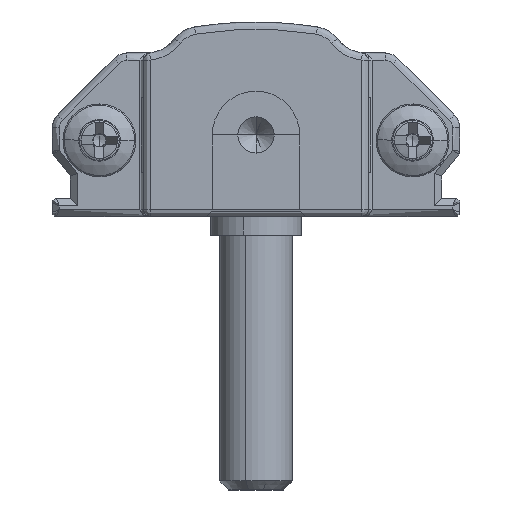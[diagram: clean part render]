
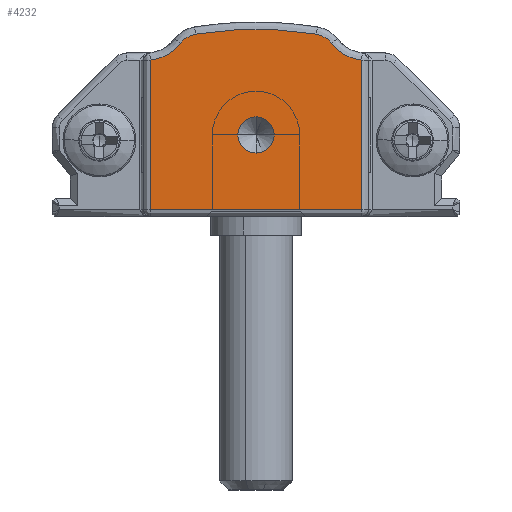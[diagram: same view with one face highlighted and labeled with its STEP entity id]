
A CAD part, front view. The second image highlights one B-rep face of the part: STEP entity #4232.
In plain terms, the highlighted planar face has unit normal (0, -1, 0).
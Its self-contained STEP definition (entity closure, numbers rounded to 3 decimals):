
#607 = ORIENTED_EDGE ( 'NONE', *, *, #17781, .T. ) ;
#1058 = AXIS2_PLACEMENT_3D ( 'NONE', #39123, #14109, #28508 ) ;
#1127 = EDGE_CURVE ( 'NONE', #22911, #10957, #14382, .T. ) ;
#1521 = VERTEX_POINT ( 'NONE', #30233 ) ;
#1541 = CARTESIAN_POINT ( 'NONE',  ( 17., -15., 0.4 ) ) ;
#1763 = LINE ( 'NONE', #1541, #29544 ) ;
#2193 = VERTEX_POINT ( 'NONE', #19965 ) ;
#2585 = FACE_BOUND ( 'NONE', #10904, .T. ) ;
#3157 = CARTESIAN_POINT ( 'NONE',  ( 14.508, -15., 10.034 ) ) ;
#4232 = ADVANCED_FACE ( 'NONE', ( #6807, #2585 ), #45455, .T. ) ;
#5289 = CARTESIAN_POINT ( 'NONE',  ( 11.2, -15., -10.376 ) ) ;
#5462 = CARTESIAN_POINT ( 'NONE',  ( 17., -15., 8.612 ) ) ;
#6319 = DIRECTION ( 'NONE',  ( 0., -1., 0. ) ) ;
#6807 = FACE_OUTER_BOUND ( 'NONE', #40080, .T. ) ;
#6845 = CARTESIAN_POINT ( 'NONE',  ( 11.2, -15., 4.5 ) ) ;
#7504 = DIRECTION ( 'NONE',  ( 0., -1., 0. ) ) ;
#8138 = LINE ( 'NONE', #14107, #9504 ) ;
#8271 = AXIS2_PLACEMENT_3D ( 'NONE', #5289, #30073, #45092 ) ;
#8991 = DIRECTION ( 'NONE',  ( 0., 0., 1. ) ) ;
#9504 = VECTOR ( 'NONE', #21427, 1000. ) ;
#9547 = AXIS2_PLACEMENT_3D ( 'NONE', #6845, #35658, #31025 ) ;
#9856 = DIRECTION ( 'NONE',  ( 0., 0., -1. ) ) ;
#10162 = CARTESIAN_POINT ( 'NONE',  ( 11.2, -15., 5.5 ) ) ;
#10422 = DIRECTION ( 'NONE',  ( 0., 1., 0. ) ) ;
#10904 = EDGE_LOOP ( 'NONE', ( #18172, #32662 ) ) ;
#10957 = VERTEX_POINT ( 'NONE', #35732 ) ;
#11034 = CARTESIAN_POINT ( 'NONE',  ( 14.3, -15., 8.75 ) ) ;
#12067 = LINE ( 'NONE', #5462, #12867 ) ;
#12342 = CIRCLE ( 'NONE', #1058, 2.4 ) ;
#12769 = DIRECTION ( 'NONE',  ( 0., 0., -1. ) ) ;
#12867 = VECTOR ( 'NONE', #8991, 1000. ) ;
#13248 = EDGE_CURVE ( 'NONE', #39105, #41096, #12067, .T. ) ;
#14031 = VERTEX_POINT ( 'NONE', #3157 ) ;
#14107 = CARTESIAN_POINT ( 'NONE',  ( 5.4, -15., 0.4 ) ) ;
#14109 = DIRECTION ( 'NONE',  ( 0., 1., 0. ) ) ;
#14382 = CIRCLE ( 'NONE', #37741, 1. ) ;
#14662 = AXIS2_PLACEMENT_3D ( 'NONE', #34918, #6319, #9856 ) ;
#15052 = CIRCLE ( 'NONE', #8271, 20.676 ) ;
#17781 = EDGE_CURVE ( 'NONE', #1521, #14031, #26339, .T. ) ;
#18172 = ORIENTED_EDGE ( 'NONE', *, *, #21695, .F. ) ;
#19965 = CARTESIAN_POINT ( 'NONE',  ( 7.892, -15., 10.034 ) ) ;
#21427 = DIRECTION ( 'NONE',  ( 0., 0., -1. ) ) ;
#21435 = CARTESIAN_POINT ( 'NONE',  ( 22.15, -15., 3.606 ) ) ;
#21570 = ORIENTED_EDGE ( 'NONE', *, *, #35880, .T. ) ;
#21695 = EDGE_CURVE ( 'NONE', #10957, #22911, #38960, .T. ) ;
#22811 = ORIENTED_EDGE ( 'NONE', *, *, #45388, .T. ) ;
#22911 = VERTEX_POINT ( 'NONE', #10162 ) ;
#24563 = VERTEX_POINT ( 'NONE', #25116 ) ;
#24580 = DIRECTION ( 'NONE',  ( 0., 0., -1. ) ) ;
#24684 = EDGE_CURVE ( 'NONE', #24563, #39105, #1763, .T. ) ;
#24755 = VERTEX_POINT ( 'NONE', #34803 ) ;
#25116 = CARTESIAN_POINT ( 'NONE',  ( 5.4, -15., 0.4 ) ) ;
#25158 = VERTEX_POINT ( 'NONE', #38598 ) ;
#26339 = CIRCLE ( 'NONE', #27846, 1.3 ) ;
#26396 = AXIS2_PLACEMENT_3D ( 'NONE', #28144, #10422, #24580 ) ;
#26754 = DIRECTION ( 'NONE',  ( 1., 0., 0. ) ) ;
#27121 = CIRCLE ( 'NONE', #26396, 2.4 ) ;
#27846 = AXIS2_PLACEMENT_3D ( 'NONE', #11034, #7504, #36317 ) ;
#28144 = CARTESIAN_POINT ( 'NONE',  ( 17.238, -15., 11. ) ) ;
#28508 = DIRECTION ( 'NONE',  ( 0., 0., -1. ) ) ;
#29297 = ORIENTED_EDGE ( 'NONE', *, *, #13248, .T. ) ;
#29393 = EDGE_CURVE ( 'NONE', #25158, #24755, #12342, .T. ) ;
#29544 = VECTOR ( 'NONE', #26754, 1000. ) ;
#30073 = DIRECTION ( 'NONE',  ( 0., -1., 0. ) ) ;
#30233 = CARTESIAN_POINT ( 'NONE',  ( 15.332, -15., 9.541 ) ) ;
#30749 = CARTESIAN_POINT ( 'NONE',  ( 11.2, -15., 4.5 ) ) ;
#31025 = DIRECTION ( 'NONE',  ( 0., 0., -1. ) ) ;
#31819 = EDGE_CURVE ( 'NONE', #2193, #25158, #43281, .T. ) ;
#32662 = ORIENTED_EDGE ( 'NONE', *, *, #1127, .F. ) ;
#32742 = ORIENTED_EDGE ( 'NONE', *, *, #33012, .T. ) ;
#33012 = EDGE_CURVE ( 'NONE', #24755, #24563, #8138, .T. ) ;
#33430 = ORIENTED_EDGE ( 'NONE', *, *, #31819, .T. ) ;
#34803 = CARTESIAN_POINT ( 'NONE',  ( 5.4, -15., 8.612 ) ) ;
#34918 = CARTESIAN_POINT ( 'NONE',  ( 8.1, -15., 8.75 ) ) ;
#35658 = DIRECTION ( 'NONE',  ( 0., -1., 0. ) ) ;
#35732 = CARTESIAN_POINT ( 'NONE',  ( 11.2, -15., 3.5 ) ) ;
#35880 = EDGE_CURVE ( 'NONE', #41096, #1521, #27121, .T. ) ;
#36317 = DIRECTION ( 'NONE',  ( 0., 0., -1. ) ) ;
#37369 = ORIENTED_EDGE ( 'NONE', *, *, #29393, .T. ) ;
#37370 = AXIS2_PLACEMENT_3D ( 'NONE', #21435, #43569, #46619 ) ;
#37741 = AXIS2_PLACEMENT_3D ( 'NONE', #30749, #38259, #12769 ) ;
#38259 = DIRECTION ( 'NONE',  ( 0., -1., 0. ) ) ;
#38598 = CARTESIAN_POINT ( 'NONE',  ( 7.068, -15., 9.541 ) ) ;
#38960 = CIRCLE ( 'NONE', #9547, 1. ) ;
#39105 = VERTEX_POINT ( 'NONE', #46389 ) ;
#39123 = CARTESIAN_POINT ( 'NONE',  ( 5.162, -15., 11. ) ) ;
#40080 = EDGE_LOOP ( 'NONE', ( #29297, #21570, #607, #22811, #33430, #37369, #32742, #43258 ) ) ;
#40776 = CARTESIAN_POINT ( 'NONE',  ( 17., -15., 8.612 ) ) ;
#41096 = VERTEX_POINT ( 'NONE', #40776 ) ;
#43258 = ORIENTED_EDGE ( 'NONE', *, *, #24684, .T. ) ;
#43281 = CIRCLE ( 'NONE', #14662, 1.3 ) ;
#43569 = DIRECTION ( 'NONE',  ( 0., -1., 0. ) ) ;
#45092 = DIRECTION ( 'NONE',  ( 0., 0., -1. ) ) ;
#45388 = EDGE_CURVE ( 'NONE', #14031, #2193, #15052, .T. ) ;
#45455 = PLANE ( 'NONE',  #37370 ) ;
#46389 = CARTESIAN_POINT ( 'NONE',  ( 17., -15., 0.4 ) ) ;
#46619 = DIRECTION ( 'NONE',  ( 0., 0., -1. ) ) ;
